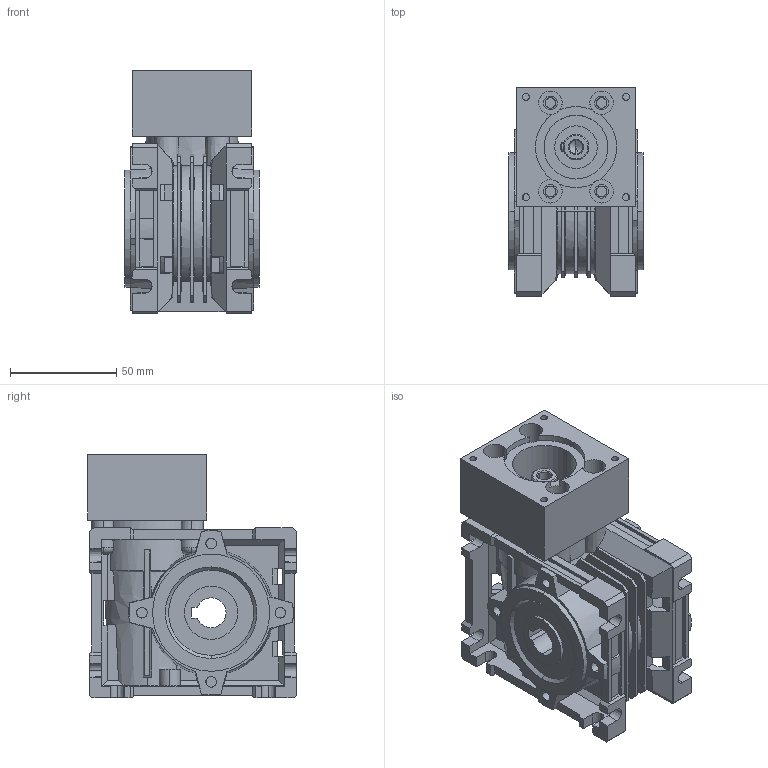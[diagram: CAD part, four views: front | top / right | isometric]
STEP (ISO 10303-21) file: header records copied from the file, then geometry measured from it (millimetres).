
FILE_DESCRIPTION (( 'STEP AP214' ), '1' );
FILE_NAME ('CM030+AS 304+ATP 111.STEP', '2014-02-28T11:21:05', ( 'Utente' ), ( 'Hewlett-Packard Company' ), 'SwSTEP 2.0', 'SolidWorks 2013', '' );
FILE_SCHEMA (( 'AUTOMOTIVE_DESIGN' ));
Length unit declared in the file: millimetre
Products named in the file (6): UNI6604-A-4x4x12; UNI 5923-M4X4-45H; ATP 111; AS 304; CM030_U_NO PAM; CM030+AS 304+ATP 111
Assembly tree (5 placements, depth 2):
  CM030+AS 304+ATP 111
    CM030_U_NO PAM
    AS 304
    ATP 111
    UNI 5923-M4X4-45H
    UNI6604-A-4x4x12
Bounding box: 63 x 98 x 114.5 mm (x, y, z)
Volume: 367468.6 mm3; surface area: 87829.7 mm2
Topology: 5 solids, 5 shells, 734 faces, 2017 edges, 1306 vertices
Faces by surface type: plane 493, cone 147, cylinder 86, torus 8
Entity records: 24618 total; most frequent: CARTESIAN_POINT 5619, ORIENTED_EDGE 4018, DIRECTION 3447, EDGE_CURVE 2009, VERTEX_POINT 1306, VECTOR 1279, LINE 1279, AXIS2_PLACEMENT_3D 1084
